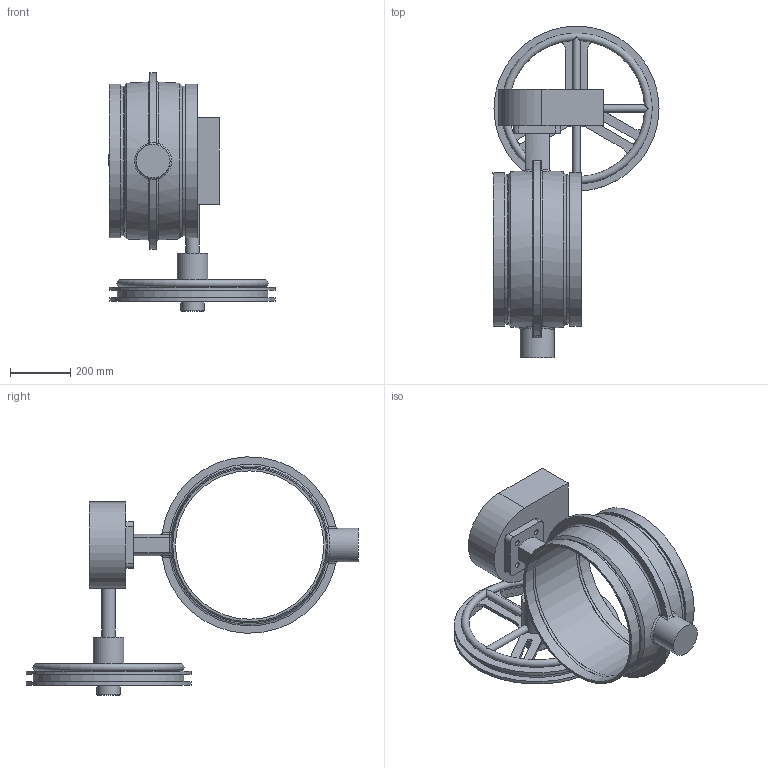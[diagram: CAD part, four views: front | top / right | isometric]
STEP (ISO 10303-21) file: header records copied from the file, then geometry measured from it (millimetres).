
FILE_DESCRIPTION(/* description */ (''),/* implementation_level */ '2;1');
FILE_NAME(/* name */ 'C:\Files for Export\W761\STEP\Victaulic_IPS-AGS_Vlv Btfl Vic-300 MS CW_Series W761\Victaulic_IPS-AGS_Vlv Btfl Vic-300 MS CW_Series W761 (AGS)_20 (500).stp',/* time_stamp */ '2024-11-19T14:43:08+01:00',/* author */ ('vjadhav'),/* organization */ (''),/* preprocessor_version */ 'ST-DEVELOPER v18.1',/* originating_system */ 'Autodesk Inventor 2020',/* authorisation */ '');
FILE_SCHEMA (('AUTOMOTIVE_DESIGN { 1 0 10303 214 3 1 1 }'));
Length unit declared in the file: inch
Products named in the file (1): W761-20.0
Bounding box: 549.4 x 1098.8 x 788.76 mm (x, y, z)
Volume: 23778853.3 mm3; surface area: 2157532.6 mm2
Topology: 1 solids, 1 shells, 153 faces, 438 edges, 285 vertices
Faces by surface type: cylinder 65, plane 52, torus 14, bspline 10, sphere 8, cone 4
Full cylindrical faces by diameter (mm): 17.069 x4, 24.994 x2, 44.45 x1, 76.2 x1, 101.6 x1, 111.76 x1, 124.46 x1, 489.712 x1, 491.236 x1, 495.3 x2, 497.84 x1, 508 x2, 546.1 x2
Entity records: 6009 total; most frequent: CARTESIAN_POINT 1820, ORIENTED_EDGE 892, DIRECTION 879, EDGE_CURVE 446, AXIS2_PLACEMENT_3D 365, VERTEX_POINT 286, CIRCLE 221, EDGE_LOOP 178
